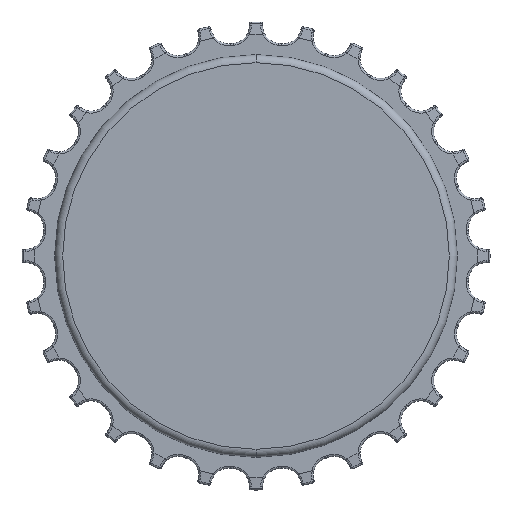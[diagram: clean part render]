
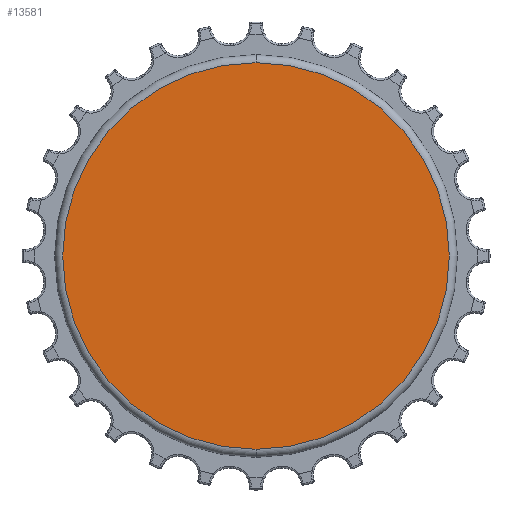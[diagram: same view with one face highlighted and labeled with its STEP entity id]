
A CAD part, left-side view. The second image highlights one B-rep face of the part: STEP entity #13581.
In plain terms, the highlighted planar face has unit normal (-1, 0, 0).
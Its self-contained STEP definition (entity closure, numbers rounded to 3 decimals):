
#14=CARTESIAN_POINT('',(-10.,0.,0.));
#15=DIRECTION('',(-1.,0.,0.));
#16=DIRECTION('',(0.,0.,1.));
#17=AXIS2_PLACEMENT_3D('',#14,#15,#16);
#29=CARTESIAN_POINT('',(-10.,0.,0.));
#30=DIRECTION('',(1.,0.,0.));
#31=DIRECTION('',(0.,0.,1.));
#32=AXIS2_PLACEMENT_3D('',#29,#30,#31);
#11832=CARTESIAN_POINT('',(-10.,0.,48.));
#11834=VERTEX_POINT('',#11832);
#11844=CARTESIAN_POINT('',(-10.,0.,-48.));
#11846=VERTEX_POINT('',#11844);
#13570=CARTESIAN_POINT('',(-10.,0.,0.));
#13571=DIRECTION('',(-1.,0.,0.));
#13572=DIRECTION('',(0.,0.,-1.));
#13573=AXIS2_PLACEMENT_3D('',#13570,#13571,#13572);
#13574=PLANE('',#13573);
#13576=ORIENTED_EDGE('',*,*,#13575,.F.);
#13578=ORIENTED_EDGE('',*,*,#13577,.T.);
#13579=EDGE_LOOP('',(#13576,#13578));
#13580=FACE_OUTER_BOUND('',#13579,.F.);
#13581=ADVANCED_FACE('',(#13580),#13574,.T.);
#18=CIRCLE('',#17,48.);
#33=CIRCLE('',#32,48.);
#13575=EDGE_CURVE('',#11834,#11846,#18,.T.);
#13577=EDGE_CURVE('',#11834,#11846,#33,.T.);
